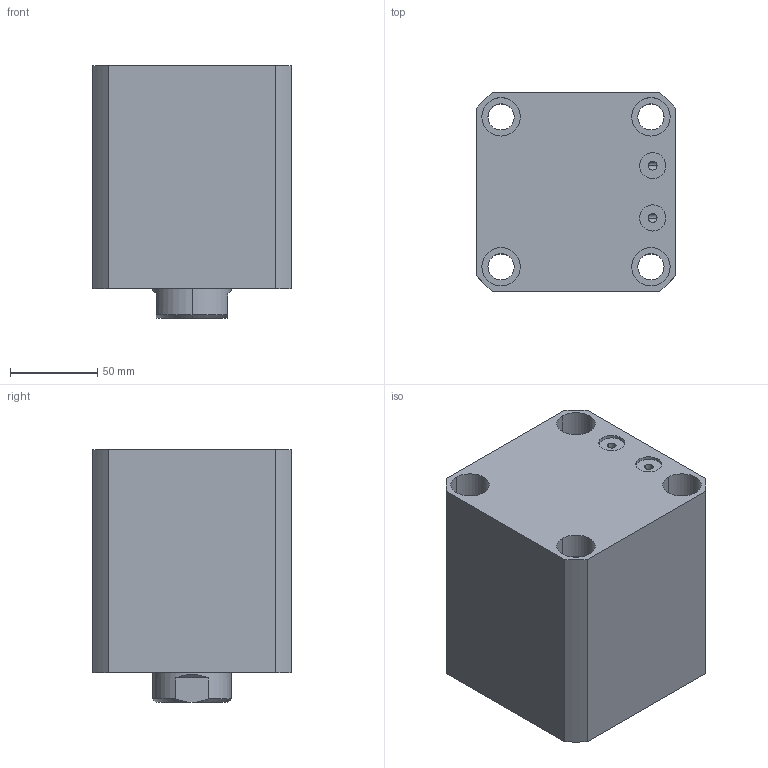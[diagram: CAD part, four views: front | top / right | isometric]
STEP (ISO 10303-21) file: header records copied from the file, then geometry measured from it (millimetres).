
FILE_DESCRIPTION (( 'STEP AP214' ), '1' );
FILE_NAME ('chtb-sdmb80x50n_asm.STEP', '2018-05-25T03:05:10', ( 'Windows' ), ( 'Microsoft' ), 'SwSTEP 2.0', 'SolidWorks 2015', '' );
FILE_SCHEMA (( 'AUTOMOTIVE_DESIGN' ));
Length unit declared in the file: millimetre
Products named in the file (4): CHTB-SD80QG; chtb-sdmb80x50n_asm; CHTB-SDMB80X50NBT; CHTB-SD80X50NHSG
Assembly tree (3 placements, depth 2):
  chtb-sdmb80x50n_asm
    CHTB-SD80QG
    CHTB-SD80X50NHSG
    CHTB-SDMB80X50NBT
Bounding box: 114 x 114 x 145 mm (x, y, z)
Volume: 1343310.2 mm3; surface area: 201394.8 mm2
Topology: 3 solids, 3 shells, 190 faces, 516 edges, 345 vertices
Faces by surface type: cylinder 107, plane 35, torus 18, cone 16, bspline 14
Entity records: 15174 total; most frequent: CARTESIAN_POINT 10467, ORIENTED_EDGE 1020, DIRECTION 879, EDGE_CURVE 510, AXIS2_PLACEMENT_3D 368, VERTEX_POINT 345, EDGE_LOOP 227, FACE_OUTER_BOUND 190
